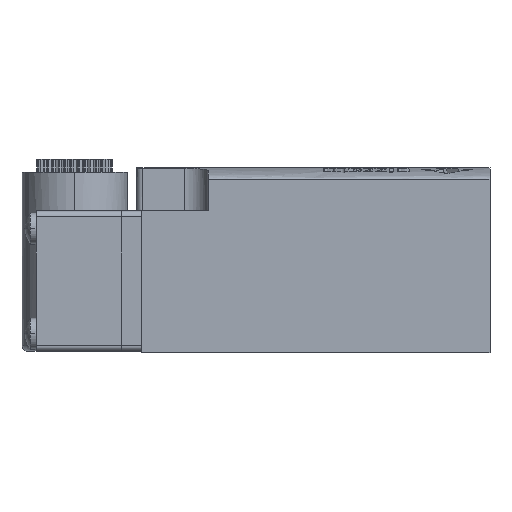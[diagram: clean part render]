
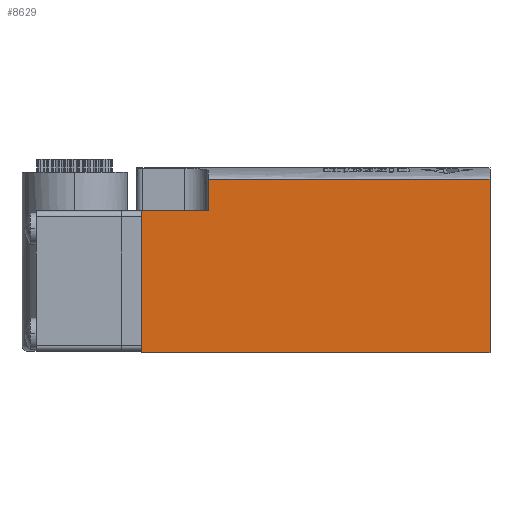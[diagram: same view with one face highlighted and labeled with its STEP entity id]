
A CAD part, left-side view. The second image highlights one B-rep face of the part: STEP entity #8629.
In plain terms, the highlighted planar face has unit normal (-1, 0, 0).
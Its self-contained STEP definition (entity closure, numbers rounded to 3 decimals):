
#514 = VERTEX_POINT ( 'NONE', #1906 ) ;
#807 = DIRECTION ( 'NONE',  ( 0., 0., 1. ) ) ;
#901 = CARTESIAN_POINT ( 'NONE',  ( -15.6, -31.5, -12.2 ) ) ;
#1358 = DIRECTION ( 'NONE',  ( 0., 0., -1. ) ) ;
#1392 = CARTESIAN_POINT ( 'NONE',  ( -15.6, -31.5, 19.4 ) ) ;
#1513 = ORIENTED_EDGE ( 'NONE', *, *, #15344, .F. ) ;
#1546 = VERTEX_POINT ( 'NONE', #11385 ) ;
#1906 = CARTESIAN_POINT ( 'NONE',  ( -15.6, -31.5, 17.4 ) ) ;
#2096 = ORIENTED_EDGE ( 'NONE', *, *, #15809, .T. ) ;
#2275 = EDGE_CURVE ( 'NONE', #16086, #16709, #5659, .T. ) ;
#2368 = CARTESIAN_POINT ( 'NONE',  ( -15.6, -31.5, 19.4 ) ) ;
#2455 = LINE ( 'NONE', #5967, #15068 ) ;
#3111 = CARTESIAN_POINT ( 'NONE',  ( -15.6, 28., 19.4 ) ) ;
#4042 = B_SPLINE_CURVE_WITH_KNOTS ( 'NONE', 3,
 ( #17460, #8940, #10819, #12251 ),
 .UNSPECIFIED., .F., .F.,
 ( 4, 4 ),
 ( 0., 1. ),
 .UNSPECIFIED. ) ;
#4133 = EDGE_CURVE ( 'NONE', #514, #8572, #4042, .T. ) ;
#4403 = AXIS2_PLACEMENT_3D ( 'NONE', #1392, #13170, #7978 ) ;
#4554 = VECTOR ( 'NONE', #15308, 1000. ) ;
#4794 = VECTOR ( 'NONE', #17477, 1000. ) ;
#5037 = LINE ( 'NONE', #18832, #4554 ) ;
#5659 = LINE ( 'NONE', #10719, #4794 ) ;
#5967 = CARTESIAN_POINT ( 'NONE',  ( -15.6, 16.7, 12. ) ) ;
#6235 = ORIENTED_EDGE ( 'NONE', *, *, #12225, .T. ) ;
#7097 = LINE ( 'NONE', #2368, #11603 ) ;
#7309 = DIRECTION ( 'NONE',  ( 0., 0., -1. ) ) ;
#7978 = DIRECTION ( 'NONE',  ( 0., 1., 0. ) ) ;
#8372 = CARTESIAN_POINT ( 'NONE',  ( -15.6, 16.7, 12. ) ) ;
#8572 = VERTEX_POINT ( 'NONE', #20784 ) ;
#8629 = ADVANCED_FACE ( 'NONE', ( #17930 ), #13281, .F. ) ;
#8940 = CARTESIAN_POINT ( 'NONE',  ( -15.6, -15.433, 17.4 ) ) ;
#10259 = VERTEX_POINT ( 'NONE', #901 ) ;
#10719 = CARTESIAN_POINT ( 'NONE',  ( -15.6, 28., 12. ) ) ;
#10819 = CARTESIAN_POINT ( 'NONE',  ( -15.6, 0.633, 17.4 ) ) ;
#11385 = CARTESIAN_POINT ( 'NONE',  ( -15.6, 28., -12.2 ) ) ;
#11550 = ORIENTED_EDGE ( 'NONE', *, *, #4133, .T. ) ;
#11603 = VECTOR ( 'NONE', #7309, 1000. ) ;
#12075 = EDGE_CURVE ( 'NONE', #16709, #8572, #2455, .T. ) ;
#12225 = EDGE_CURVE ( 'NONE', #16086, #1546, #19767, .T. ) ;
#12251 = CARTESIAN_POINT ( 'NONE',  ( -15.6, 16.7, 17.4 ) ) ;
#13170 = DIRECTION ( 'NONE',  ( 1., 0., 0. ) ) ;
#13281 = PLANE ( 'NONE',  #4403 ) ;
#15068 = VECTOR ( 'NONE', #807, 1000. ) ;
#15308 = DIRECTION ( 'NONE',  ( 0., -1., 0. ) ) ;
#15344 = EDGE_CURVE ( 'NONE', #514, #10259, #7097, .T. ) ;
#15767 = ORIENTED_EDGE ( 'NONE', *, *, #2275, .F. ) ;
#15809 = EDGE_CURVE ( 'NONE', #1546, #10259, #5037, .T. ) ;
#16086 = VERTEX_POINT ( 'NONE', #18913 ) ;
#16417 = ORIENTED_EDGE ( 'NONE', *, *, #12075, .F. ) ;
#16709 = VERTEX_POINT ( 'NONE', #8372 ) ;
#17188 = VECTOR ( 'NONE', #1358, 1000. ) ;
#17460 = CARTESIAN_POINT ( 'NONE',  ( -15.6, -31.5, 17.4 ) ) ;
#17477 = DIRECTION ( 'NONE',  ( 0., -1., 0. ) ) ;
#17930 = FACE_OUTER_BOUND ( 'NONE', #19258, .T. ) ;
#18832 = CARTESIAN_POINT ( 'NONE',  ( -15.6, -31.5, -12.2 ) ) ;
#18913 = CARTESIAN_POINT ( 'NONE',  ( -15.6, 28., 12. ) ) ;
#19258 = EDGE_LOOP ( 'NONE', ( #1513, #11550, #16417, #15767, #6235, #2096 ) ) ;
#19767 = LINE ( 'NONE', #3111, #17188 ) ;
#20784 = CARTESIAN_POINT ( 'NONE',  ( -15.6, 16.7, 17.4 ) ) ;
